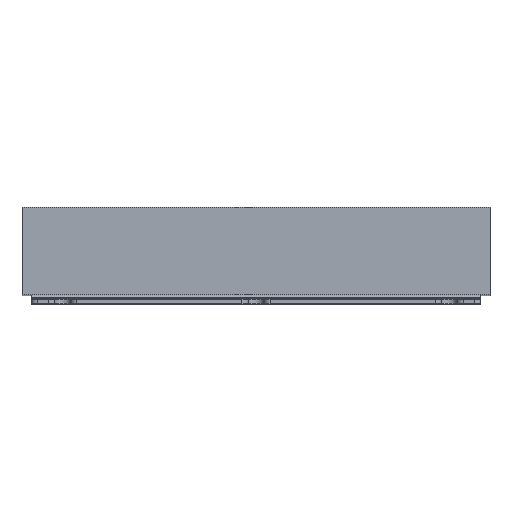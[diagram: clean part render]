
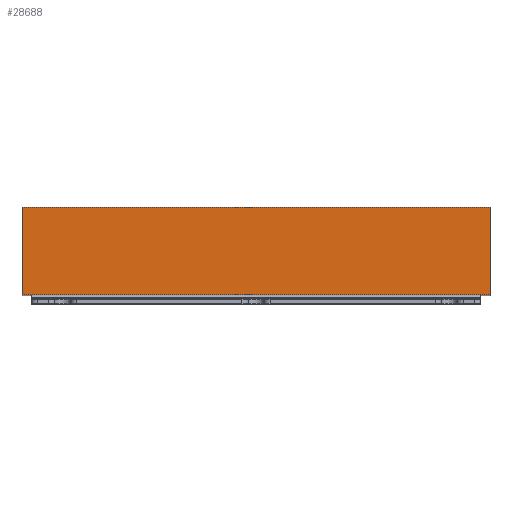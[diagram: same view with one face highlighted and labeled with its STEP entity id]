
A CAD part, top view. The second image highlights one B-rep face of the part: STEP entity #28688.
In plain terms, the highlighted planar face has unit normal (0, 0, 1).
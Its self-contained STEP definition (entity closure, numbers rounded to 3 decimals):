
#5637 = EDGE_CURVE ( 'NONE', #72658, #60619, #112498, .T. ) ;
#5648 = EDGE_CURVE ( 'NONE', #93059, #72658, #112516, .T. ) ;
#5672 = EDGE_CURVE ( 'NONE', #60619, #61516, #112554, .T. ) ;
#5698 = EDGE_CURVE ( 'NONE', #61516, #93059, #112609, .T. ) ;
#10826 = ORIENTED_EDGE ( 'NONE', *, *, #5698, .T. ) ;
#10869 = ORIENTED_EDGE ( 'NONE', *, *, #5672, .T. ) ;
#10872 = ORIENTED_EDGE ( 'NONE', *, *, #5648, .T. ) ;
#10877 = ORIENTED_EDGE ( 'NONE', *, *, #5637, .T. ) ;
#28688 = ADVANCED_FACE ( 'NONE', ( #64775 ), #88949, .T. ) ;
#31847 = EDGE_LOOP ( 'NONE', ( #10826, #10872, #10877, #10869 ) ) ;
#50099 = CARTESIAN_POINT ( 'NONE',  ( -132.325, 28.741, 97.409 ) ) ;
#50111 = CARTESIAN_POINT ( 'NONE',  ( 24.647, -0.596, 97.409 ) ) ;
#50203 = CARTESIAN_POINT ( 'NONE',  ( -132.325, -0.596, 97.409 ) ) ;
#56171 = CARTESIAN_POINT ( 'NONE',  ( 24.647, 28.741, 97.409 ) ) ;
#57567 = CARTESIAN_POINT ( 'NONE',  ( -132.325, 28.741, 97.409 ) ) ;
#57806 = DIRECTION ( 'NONE',  ( 0., -1., 0. ) ) ;
#60619 = VERTEX_POINT ( 'NONE', #56171 ) ;
#61516 = VERTEX_POINT ( 'NONE', #50099 ) ;
#64775 = FACE_OUTER_BOUND ( 'NONE', #31847, .T. ) ;
#72658 = VERTEX_POINT ( 'NONE', #50111 ) ;
#78563 = AXIS2_PLACEMENT_3D ( 'NONE', #88934, #88953, #88955 ) ;
#81976 = DIRECTION ( 'NONE',  ( 1., 0., 0. ) ) ;
#82009 = DIRECTION ( 'NONE',  ( 0., 1., 0. ) ) ;
#82043 = CARTESIAN_POINT ( 'NONE',  ( -132.325, -0.596, 97.409 ) ) ;
#82060 = CARTESIAN_POINT ( 'NONE',  ( 24.647, 28.741, 97.409 ) ) ;
#82113 = DIRECTION ( 'NONE',  ( -1., 0., 0. ) ) ;
#82119 = CARTESIAN_POINT ( 'NONE',  ( -132.325, 28.741, 97.409 ) ) ;
#88934 = CARTESIAN_POINT ( 'NONE',  ( -53.839, 14.072, 97.409 ) ) ;
#88949 = PLANE ( 'NONE',  #78563 ) ;
#88953 = DIRECTION ( 'NONE',  ( 0., 0., 1. ) ) ;
#88955 = DIRECTION ( 'NONE',  ( 1., 0., 0. ) ) ;
#93059 = VERTEX_POINT ( 'NONE', #50203 ) ;
#112498 = LINE ( 'NONE', #82060, #112503 ) ;
#112503 = VECTOR ( 'NONE', #82009, 1000. ) ;
#112516 = LINE ( 'NONE', #82043, #112517 ) ;
#112517 = VECTOR ( 'NONE', #81976, 1000. ) ;
#112554 = LINE ( 'NONE', #82119, #112557 ) ;
#112557 = VECTOR ( 'NONE', #82113, 1000. ) ;
#112609 = LINE ( 'NONE', #57567, #112613 ) ;
#112613 = VECTOR ( 'NONE', #57806, 1000. ) ;
